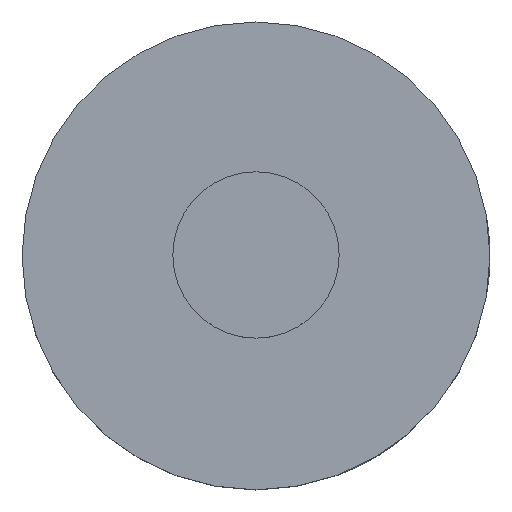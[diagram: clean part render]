
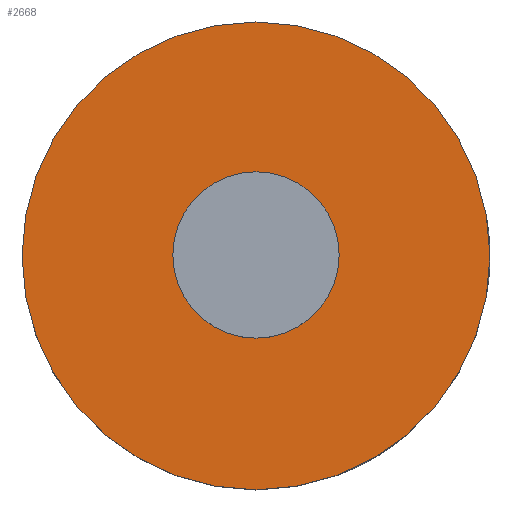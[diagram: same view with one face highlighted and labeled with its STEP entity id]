
A CAD part, top view. The second image highlights one B-rep face of the part: STEP entity #2668.
In plain terms, the highlighted planar face has unit normal (0, 0, 1).
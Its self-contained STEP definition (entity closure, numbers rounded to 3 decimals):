
#1=CARTESIAN_POINT('',(0.,0.,9.5));
#2=DIRECTION('',(0.,0.,1.));
#3=DIRECTION('',(0.,1.,0.));
#4=AXIS2_PLACEMENT_3D('',#1,#2,#3);
#6=CARTESIAN_POINT('',(0.,0.,9.5));
#7=DIRECTION('',(0.,0.,1.));
#8=DIRECTION('',(0.,-1.,0.));
#9=AXIS2_PLACEMENT_3D('',#6,#7,#8);
#11=CARTESIAN_POINT('',(0.,0.,9.5));
#12=DIRECTION('',(0.,0.,-1.));
#13=DIRECTION('',(0.,-1.,0.));
#14=AXIS2_PLACEMENT_3D('',#11,#12,#13);
#16=CARTESIAN_POINT('',(0.,0.,9.5));
#17=DIRECTION('',(0.,0.,-1.));
#18=DIRECTION('',(0.,1.,0.));
#19=AXIS2_PLACEMENT_3D('',#16,#17,#18);
#2358=CARTESIAN_POINT('',(0.,22.5,9.5));
#2359=CARTESIAN_POINT('',(0.,-22.5,9.5));
#2360=VERTEX_POINT('',#2358);
#2361=VERTEX_POINT('',#2359);
#2362=CARTESIAN_POINT('',(0.,-6.05,9.5));
#2363=CARTESIAN_POINT('',(0.,6.05,9.5));
#2364=VERTEX_POINT('',#2362);
#2365=VERTEX_POINT('',#2363);
#2651=CARTESIAN_POINT('',(0.,0.,9.5));
#2652=DIRECTION('',(0.,0.,1.));
#2653=DIRECTION('',(0.,-1.,0.));
#2654=AXIS2_PLACEMENT_3D('',#2651,#2652,#2653);
#2655=PLANE('',#2654);
#2657=ORIENTED_EDGE('',*,*,#2656,.F.);
#2659=ORIENTED_EDGE('',*,*,#2658,.F.);
#2660=EDGE_LOOP('',(#2657,#2659));
#2661=FACE_OUTER_BOUND('',#2660,.F.);
#2663=ORIENTED_EDGE('',*,*,#2662,.F.);
#2665=ORIENTED_EDGE('',*,*,#2664,.F.);
#2666=EDGE_LOOP('',(#2663,#2665));
#2667=FACE_BOUND('',#2666,.F.);
#2668=ADVANCED_FACE('',(#2661,#2667),#2655,.T.);
#5=CIRCLE('',#4,22.5);
#10=CIRCLE('',#9,22.5);
#15=CIRCLE('',#14,6.05);
#20=CIRCLE('',#19,6.05);
#2656=EDGE_CURVE('',#2360,#2361,#5,.T.);
#2658=EDGE_CURVE('',#2361,#2360,#10,.T.);
#2662=EDGE_CURVE('',#2364,#2365,#15,.T.);
#2664=EDGE_CURVE('',#2365,#2364,#20,.T.);
